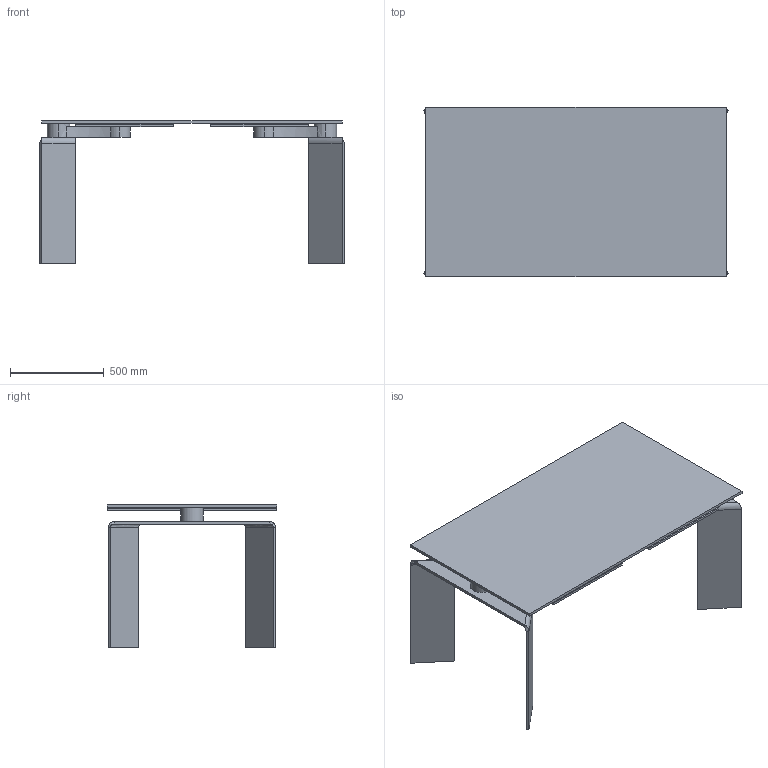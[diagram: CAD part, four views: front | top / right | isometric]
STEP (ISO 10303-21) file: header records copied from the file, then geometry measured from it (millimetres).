
FILE_DESCRIPTION(/* description */ (''),/* implementation_level */ '2;1');
FILE_NAME(/* name */ '1712 - Ray Plus 160x90',/* time_stamp */ '2010-12-13T15:39:16+01:00',/* author */ (''),/* organization */ (''),/* preprocessor_version */ 'ST-DEVELOPER v10',/* originating_system */ '',/* authorisation */ '');
FILE_SCHEMA (('CONFIG_CONTROL_DESIGN'));
Length unit declared in the file: centimetre
Products named in the file (1): 1
Bounding box: 1619.21 x 900 x 759.5 mm (x, y, z)
Volume: 50236970.8 mm3; surface area: 7047469.6 mm2
Topology: 7 solids, 7 shells, 86 faces, 172 edges, 100 vertices
Faces by surface type: plane 54, bspline 32
Entity records: 2680 total; most frequent: CARTESIAN_POINT 1425, ORIENTED_EDGE 344, EDGE_CURVE 172, B_SPLINE_CURVE_WITH_KNOTS 107, VERTEX_POINT 100, ADVANCED_FACE 86, FACE_OUTER_BOUND 86, EDGE_LOOP 86
